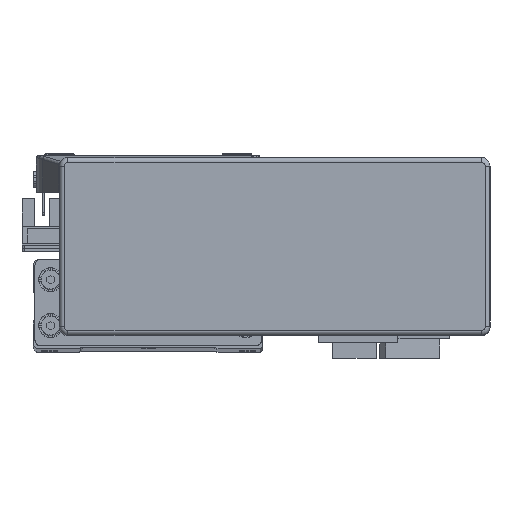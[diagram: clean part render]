
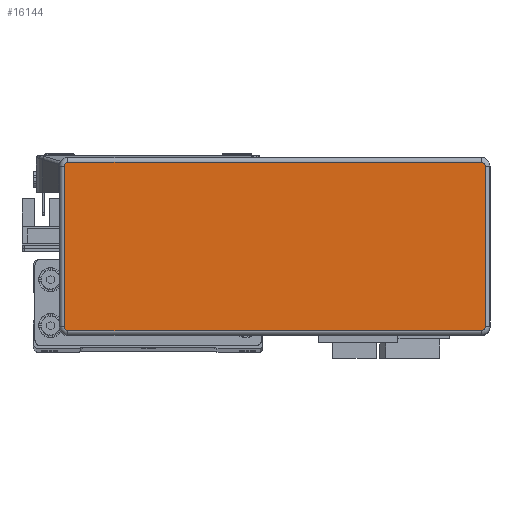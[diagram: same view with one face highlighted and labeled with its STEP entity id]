
A CAD part, top view. The second image highlights one B-rep face of the part: STEP entity #16144.
In plain terms, the highlighted planar face has unit normal (0, 0, 1) as drawn and (0, 0, -1) by its records, which use the part's own axes.
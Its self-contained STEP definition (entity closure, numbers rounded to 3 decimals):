
#1520 = AXIS2_PLACEMENT_3D ( 'NONE', #29144, #29146, #29131 ) ;
#1594 = AXIS2_PLACEMENT_3D ( 'NONE', #29366, #29320, #29322 ) ;
#3910 = VECTOR ( 'NONE', #37956, 1000. ) ;
#3927 = LINE ( 'NONE', #37940, #3910 ) ;
#3934 = CIRCLE ( 'NONE', #44749, 1.3 ) ;
#5423 = LINE ( 'NONE', #10067, #5453 ) ;
#5447 = CIRCLE ( 'NONE', #44271, 1.3 ) ;
#5453 = VECTOR ( 'NONE', #10049, 1000. ) ;
#5853 = EDGE_CURVE ( 'NONE', #23504, #23506, #5423, .T. ) ;
#5854 = EDGE_CURVE ( 'NONE', #23506, #23613, #5447, .T. ) ;
#7722 = EDGE_CURVE ( 'NONE', #23521, #23590, #3934, .T. ) ;
#7733 = EDGE_CURVE ( 'NONE', #23613, #23521, #3927, .T. ) ;
#10047 = DIRECTION ( 'NONE',  ( 1., 0., 0. ) ) ;
#10048 = DIRECTION ( 'NONE',  ( 0., 0., -1. ) ) ;
#10049 = DIRECTION ( 'NONE',  ( 0., -1., 0. ) ) ;
#10067 = CARTESIAN_POINT ( 'NONE',  ( 73.295, -27.995, -32.2 ) ) ;
#10073 = CARTESIAN_POINT ( 'NONE',  ( 71.995, -27.995, -32.2 ) ) ;
#15174 = EDGE_LOOP ( 'NONE', ( #16171, #16186, #16239, #16223, #16145, #16150, #16120, #16200 ) ) ;
#16120 = ORIENTED_EDGE ( 'NONE', *, *, #43192, .T. ) ;
#16144 = ADVANCED_FACE ( 'NONE', ( #34702 ), #40019, .F. ) ;
#16145 = ORIENTED_EDGE ( 'NONE', *, *, #43184, .T. ) ;
#16150 = ORIENTED_EDGE ( 'NONE', *, *, #43233, .T. ) ;
#16171 = ORIENTED_EDGE ( 'NONE', *, *, #5853, .T. ) ;
#16186 = ORIENTED_EDGE ( 'NONE', *, *, #5854, .T. ) ;
#16200 = ORIENTED_EDGE ( 'NONE', *, *, #43193, .T. ) ;
#16223 = ORIENTED_EDGE ( 'NONE', *, *, #7722, .T. ) ;
#16239 = ORIENTED_EDGE ( 'NONE', *, *, #7733, .T. ) ;
#20796 = LINE ( 'NONE', #29125, #20813 ) ;
#20813 = VECTOR ( 'NONE', #29073, 1000. ) ;
#20823 = VECTOR ( 'NONE', #29115, 1000. ) ;
#20832 = CIRCLE ( 'NONE', #1520, 1.3 ) ;
#20855 = LINE ( 'NONE', #29137, #20823 ) ;
#20880 = CIRCLE ( 'NONE', #1594, 1.3 ) ;
#23504 = VERTEX_POINT ( 'NONE', #25399 ) ;
#23506 = VERTEX_POINT ( 'NONE', #25384 ) ;
#23521 = VERTEX_POINT ( 'NONE', #25388 ) ;
#23539 = VERTEX_POINT ( 'NONE', #25440 ) ;
#23557 = VERTEX_POINT ( 'NONE', #25421 ) ;
#23590 = VERTEX_POINT ( 'NONE', #25452 ) ;
#23613 = VERTEX_POINT ( 'NONE', #25506 ) ;
#23682 = VERTEX_POINT ( 'NONE', #25497 ) ;
#25384 = CARTESIAN_POINT ( 'NONE',  ( 73.295, -27.995, -32.2 ) ) ;
#25388 = CARTESIAN_POINT ( 'NONE',  ( -71.995, -29.295, -32.2 ) ) ;
#25399 = CARTESIAN_POINT ( 'NONE',  ( 73.295, 27.995, -32.2 ) ) ;
#25421 = CARTESIAN_POINT ( 'NONE',  ( 71.995, 29.295, -32.2 ) ) ;
#25440 = CARTESIAN_POINT ( 'NONE',  ( -71.995, 29.295, -32.2 ) ) ;
#25452 = CARTESIAN_POINT ( 'NONE',  ( -73.295, -27.995, -32.2 ) ) ;
#25497 = CARTESIAN_POINT ( 'NONE',  ( -73.295, 27.995, -32.2 ) ) ;
#25506 = CARTESIAN_POINT ( 'NONE',  ( 71.995, -29.295, -32.2 ) ) ;
#29073 = DIRECTION ( 'NONE',  ( 1., 0., 0. ) ) ;
#29115 = DIRECTION ( 'NONE',  ( 0., 1., 0. ) ) ;
#29125 = CARTESIAN_POINT ( 'NONE',  ( 71.995, 29.295, -32.2 ) ) ;
#29131 = DIRECTION ( 'NONE',  ( 1., 0., 0. ) ) ;
#29137 = CARTESIAN_POINT ( 'NONE',  ( -73.295, -27.995, -32.2 ) ) ;
#29144 = CARTESIAN_POINT ( 'NONE',  ( 71.995, 27.995, -32.2 ) ) ;
#29146 = DIRECTION ( 'NONE',  ( 0., 0., -1. ) ) ;
#29320 = DIRECTION ( 'NONE',  ( 0., 0., -1. ) ) ;
#29322 = DIRECTION ( 'NONE',  ( 1., 0., 0. ) ) ;
#29366 = CARTESIAN_POINT ( 'NONE',  ( -71.995, 27.995, -32.2 ) ) ;
#30120 = AXIS2_PLACEMENT_3D ( 'NONE', #40009, #40010, #39979 ) ;
#34702 = FACE_OUTER_BOUND ( 'NONE', #15174, .T. ) ;
#37940 = CARTESIAN_POINT ( 'NONE',  ( 71.995, -29.295, -32.2 ) ) ;
#37942 = CARTESIAN_POINT ( 'NONE',  ( -71.995, -27.995, -32.2 ) ) ;
#37956 = DIRECTION ( 'NONE',  ( -1., 0., 0. ) ) ;
#37974 = DIRECTION ( 'NONE',  ( 0., 0., -1. ) ) ;
#37977 = DIRECTION ( 'NONE',  ( 1., 0., 0. ) ) ;
#39979 = DIRECTION ( 'NONE',  ( 1., 0., 0. ) ) ;
#40009 = CARTESIAN_POINT ( 'NONE',  ( 71.995, -27.995, -32.2 ) ) ;
#40010 = DIRECTION ( 'NONE',  ( 0., 0., 1. ) ) ;
#40019 = PLANE ( 'NONE',  #30120 ) ;
#43184 = EDGE_CURVE ( 'NONE', #23590, #23682, #20855, .T. ) ;
#43192 = EDGE_CURVE ( 'NONE', #23539, #23557, #20796, .T. ) ;
#43193 = EDGE_CURVE ( 'NONE', #23557, #23504, #20832, .T. ) ;
#43233 = EDGE_CURVE ( 'NONE', #23682, #23539, #20880, .T. ) ;
#44271 = AXIS2_PLACEMENT_3D ( 'NONE', #10073, #10048, #10047 ) ;
#44749 = AXIS2_PLACEMENT_3D ( 'NONE', #37942, #37974, #37977 ) ;
